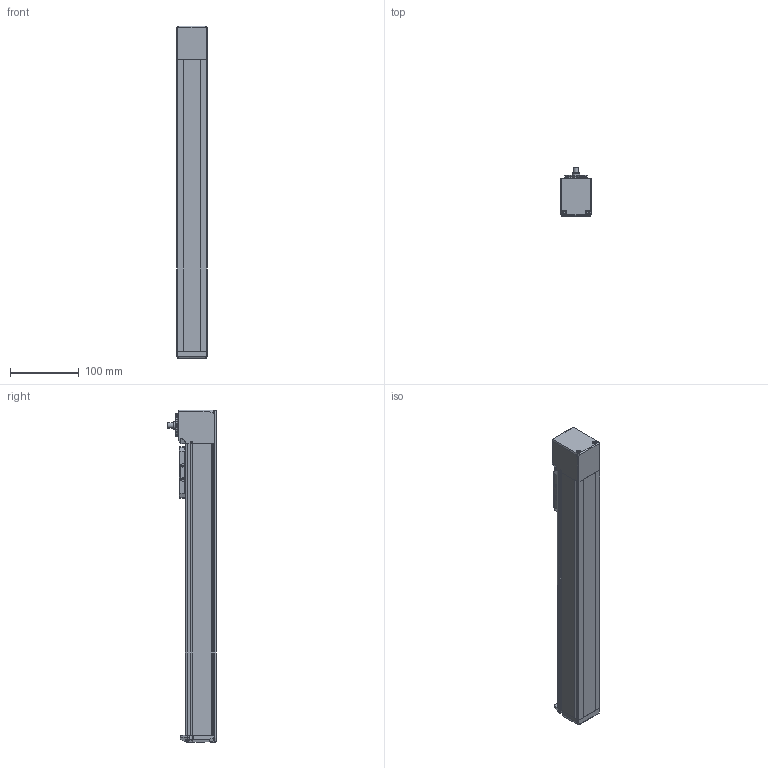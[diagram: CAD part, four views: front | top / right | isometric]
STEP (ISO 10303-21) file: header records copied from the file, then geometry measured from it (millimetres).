
FILE_DESCRIPTION(/* description */ ('STEP AP214'),/* implementation_level */ '2;1');
FILE_NAME(/* name */ 'MGTB 45 300(0)',/* time_stamp */ '2023-04-17T13:44:35+02:00',/* author */ ('License CC BY-ND 4.0'),/* organization */ ('CADENAS'),/* preprocessor_version */ 'ST-DEVELOPER v19.3',/* originating_system */ 'PARTsolutions',/* authorisation */ ' ');
FILE_SCHEMA (('AUTOMOTIVE_DESIGN {1 0 10303 214 3 1 1}'));
Length unit declared in the file: millimetre
Products named in the file (6): MGTB 45 300(0); MGTB 45 300_protection_strip; MGTB 45_carriage; MGTB 45_end_block; MGTB 45 300_profile; MGTB 45_drive_block
Assembly tree (5 placements, depth 2):
  MGTB 45 300(0)
    MGTB 45 300_protection_strip
    MGTB 45_carriage
    MGTB 45_end_block
    MGTB 45 300_profile
    MGTB 45_drive_block
Bounding box: 45 x 70.85 x 483 mm (x, y, z)
Volume: 975116 mm3; surface area: 158401.7 mm2
Topology: 5 solids, 5 shells, 689 faces, 1789 edges, 1148 vertices
Faces by surface type: plane 324, cylinder 173, cone 95, bspline 68, torus 27, sphere 2
Full cylindrical faces by diameter (mm): 1.755 x4, 2.459 x10, 2.5 x6, 3 x6, 3.242 x8, 3.8 x6, 4 x2, 4.5 x2, 5.5 x4, 6.5 x4, 8 x1, 11 x3, 12 x1, 17.12 x1, 17.5 x1, 22.5 x1, 22.88 x1, 24.5 x1, 28 x1, 34 x2
Entity records: 25091 total; most frequent: CARTESIAN_POINT 4283, DIRECTION 3440, ORIENTED_EDGE 3206, EDGE_CURVE 1603, AXIS2_PLACEMENT_3D 1244, VERTEX_POINT 1133, LINE 952, VECTOR 952
